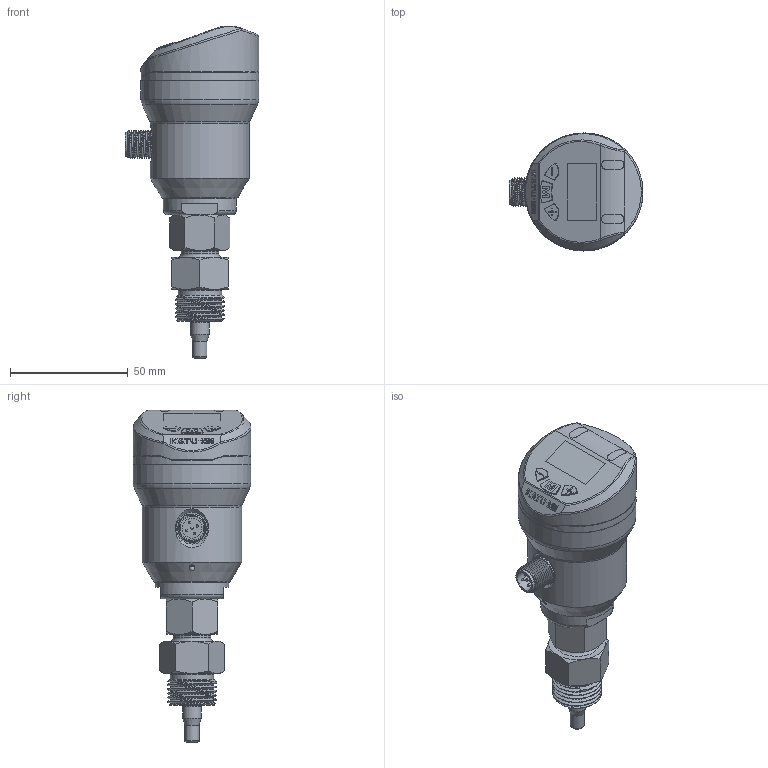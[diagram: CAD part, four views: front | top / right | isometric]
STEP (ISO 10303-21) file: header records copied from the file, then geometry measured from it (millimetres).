
FILE_DESCRIPTION( (''), '2;1');
FILE_NAME( 'QEKE_M18_L60_M18X1.5_G1-2_adapter.step', '2026-06-25T11:02:54+08:00', (''), (''), '', '', '');
FILE_SCHEMA (('AP203_CONFIGURATION_CONTROLLED_3D_DESIGN_OF_MECHANICAL_PARTS_AND_ASSEMBLIES_MIM_LF { 1 0 10303 403 2 1 2}'));
Length unit declared in the file: millimetre
Products named in the file (1): QEKE M18_L60_M18X1.5_G1-2_adapter
Bounding box: 56.7 x 50 x 140.7 mm (x, y, z)
Volume: 104017 mm3; surface area: 42360.6 mm2
Topology: 13 solids, 13 shells, 661 faces, 1630 edges, 1048 vertices
Faces by surface type: plane 339, cylinder 151, cone 71, bspline 55, torus 34, sphere 11
Full cylindrical faces by diameter (mm): 1 x10, 2.5 x1, 2.7 x5, 3.1 x1, 3.5 x2, 6 x2, 6.5 x1, 7 x1, 8 x3, 8.4 x1, 8.5 x1, 9.7 x1, 9.8 x1, 10.1 x1, 11 x1, 11.6 x1, 12 x2, 13.4 x1, 13.7 x1, 15.4 x1, 16 x1, 16.1 x1, 16.5 x6, 18.4 x1, 23 x3, 26.1 x5, 31 x1, 42 x1, 48 x1, 50 x3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
Entity records: 25016 total; most frequent: CARTESIAN_POINT 9701, ORIENTED_EDGE 2898, DIRECTION 2858, EDGE_CURVE 1449, AXIS2_PLACEMENT_3D 1051, VERTEX_POINT 980, EDGE_LOOP 833, LINE 756
